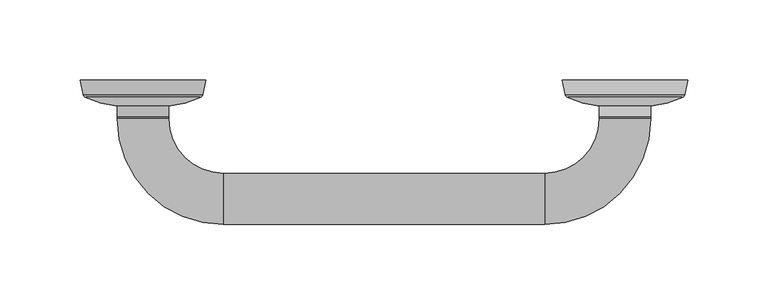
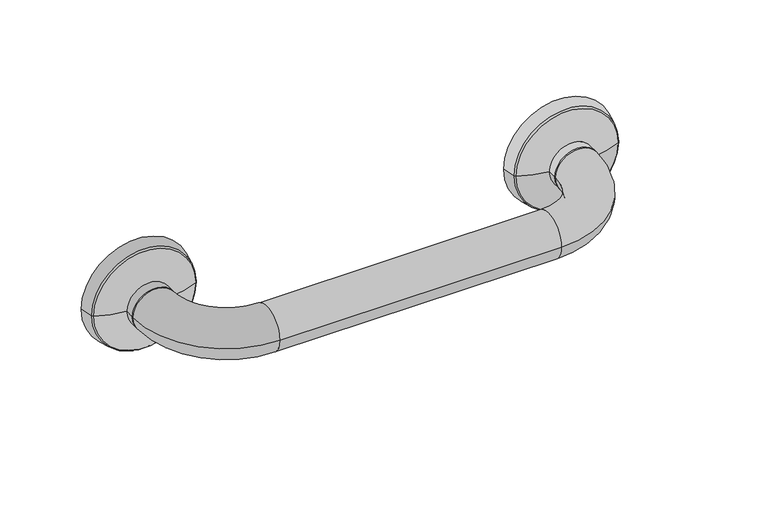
"""IFC4 building model written with IfcOpenShell, lengths in millimetres: proxy geometry, Grab Rail_Metlam_Straight_Horizontal : 332long x 90d x 32h (ML327_1SS)."""

from ifc_helpers import new_model, si_unit, point, frame, origin, place, context, project, spatial, polyline, circle_curve, ellipse_curve, trimmed, source, transform, mapped, element, save
from ifc_brep_helpers import plane_surface, cylinder_surface, revolved_surface, advanced_brep


def specialty_equipment_a866a359(model_context):
    return source(origin(), model_context, "Body", "AdvancedBrep", [
        advanced_brep(
        [(89.0, -58.0, 784.0), (55.0, -24.0, 784.0), (23.0, -24.0, 784.0), (89.0, -90.0, 784.0), (289.0, -90.0, 784.0), (289.0, -58.0, 784.0), (355.0, -24.0, 784.0), (323.0, -24.0, 784.0), (55.0, -23.0, 784.0), (23.0, -23.0, 784.0), (355.0, -23.0, 784.0), (323.0, -23.0, 784.0), (0.0, 0.0, 784.0), (78.0, 0.0, 784.0), (76.1870729, -9.0646354, 784.0), (1.8129271, -9.0646354, 784.0), (2.8615925, -10.4521085, 784.0), (75.1384075, -10.4521085, 784.0), (55.0, -16.0065539, 784.0), (23.0, -16.0065539, 784.0), (39.0, 0.0, 784.0), (378.0, 0.0, 784.0), (300.0, 0.0, 784.0), (339.0, 0.0, 784.0), (376.1870729, -9.0646354, 784.0), (301.8129271, -9.0646354, 784.0), (355.0, -16.0065539, 784.0), (323.0, -16.0065539, 784.0), (302.8615925, -10.4521085, 784.0), (375.1384075, -10.4521085, 784.0)],
        [
            (0, 1, circle_curve(frame((89.0, -24.0, 784.0), z_axis=(0.0, 0.0, -1.0), x_axis=(-1.0, 0.0, 0.0)), 34.0)),
            (1, 2, circle_curve(frame((39.0, -24.0, 784.0), z_axis=(0.0, -1.0, 0.0), x_axis=(1.0, 0.0, 0.0)), 16.0)),
            (2, 3, circle_curve(frame((89.0, -24.0, 784.0), z_axis=(0.0, 0.0, 1.0), x_axis=(-1.0, 0.0, 0.0)), 66.0)),
            (3, 0, circle_curve(frame((89.0, -74.0, 784.0), z_axis=(-1.0, 1.6734122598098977e-12, 0.0), x_axis=(1.6734122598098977e-12, 1.0, 0.0)), 16.0)),
            (0, 3, circle_curve(frame((89.0, -74.0, 784.0), z_axis=(-1.0, 3.240381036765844e-12, 0.0), x_axis=(3.240381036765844e-12, 1.0, 0.0)), 16.0)),
            (2, 1, circle_curve(frame((39.0, -24.0, 784.0), z_axis=(0.0, -1.0, 0.0), x_axis=(1.0, 0.0, 0.0)), 16.0)),
            (3, 4),
            (4, 5, circle_curve(frame((289.0, -74.0, 784.0), z_axis=(-1.0, 0.0, 0.0), x_axis=(0.0, 1.0, 0.0)), 16.0)),
            (5, 0),
            (5, 4, circle_curve(frame((289.0, -74.0, 784.0), z_axis=(-1.0, 0.0, 0.0), x_axis=(0.0, 1.0, 0.0)), 16.0)),
            (4, 6, circle_curve(frame((289.0, -24.0, 784.0), z_axis=(0.0, 0.0, 1.0), x_axis=(0.0, -1.0, 0.0)), 66.0)),
            (6, 7, circle_curve(frame((339.0, -24.0, 784.0), z_axis=(0.0, -1.0, 0.0), x_axis=(-1.0, 0.0, 0.0)), 16.0)),
            (7, 5, circle_curve(frame((289.0, -24.0, 784.0), z_axis=(0.0, 0.0, -1.0), x_axis=(0.0, -1.0, 0.0)), 34.0)),
            (7, 6, circle_curve(frame((339.0, -24.0, 784.0), z_axis=(0.0, -1.0, 0.0), x_axis=(-1.0, 0.0, 0.0)), 16.0)),
            (1, 8),
            (8, 9, circle_curve(frame((39.0, -23.0, 784.0), z_axis=(0.0, -1.0, 0.0), x_axis=(1.0, 0.0, 0.0)), 16.0)),
            (9, 2),
            (9, 8, circle_curve(frame((39.0, -23.0, 784.0), z_axis=(0.0, -1.0, 0.0), x_axis=(1.0, 0.0, 0.0)), 16.0)),
            (6, 10),
            (10, 11, circle_curve(frame((339.0, -23.0, 784.0), z_axis=(0.0, -1.0, 0.0), x_axis=(-1.0, 0.0, 0.0)), 16.0)),
            (11, 7),
            (11, 10, circle_curve(frame((339.0, -23.0, 784.0), z_axis=(0.0, -1.0, 0.0), x_axis=(-1.0, 0.0, 0.0)), 16.0)),
            (12, 13, circle_curve(frame((39.0, 0.0, 784.0), z_axis=(0.0, -1.0, 0.0), x_axis=(1.0, 0.0, 0.0)), 39.0)),
            (13, 14),
            (14, 15, circle_curve(frame((39.0, -9.0646354, 784.0), z_axis=(0.0, 1.0, 0.0), x_axis=(1.0, 0.0, 0.0)), 37.1870729)),
            (15, 12),
            (13, 12, circle_curve(frame((39.0, 0.0, 784.0), z_axis=(0.0, -1.0, 0.0), x_axis=(1.0, 0.0, 0.0)), 39.0)),
            (15, 14, circle_curve(frame((39.0, -9.0646354, 784.0), z_axis=(0.0, 1.0, 0.0), x_axis=(1.0, 0.0, 0.0)), 37.1870729)),
            (16, 17, circle_curve(frame((39.0, -10.4521085, 784.0), z_axis=(0.0, -1.0, 0.0), x_axis=(1.0, 0.0, 0.0)), 36.1384075)),
            (17, 18, circle_curve(frame((51.6887092, 35.2834961, 784.0), z_axis=(0.0, 0.0, -1.0), x_axis=(-1.0, 0.0, 0.0)), 51.3968275)),
            (18, 19, circle_curve(frame((39.0, -16.0065539, 784.0), z_axis=(0.0, 1.0, 0.0), x_axis=(1.0, 0.0, 0.0)), 16.0)),
            (19, 16, circle_curve(frame((26.3112908, 35.2834961, 784.0), z_axis=(0.0, 0.0, -1.0), x_axis=(1.0, 0.0, 0.0)), 51.3968275)),
            (17, 16, circle_curve(frame((39.0, -10.4521085, 784.0), z_axis=(0.0, -1.0, 0.0), x_axis=(1.0, 0.0, 0.0)), 36.1384075)),
            (19, 18, circle_curve(frame((39.0, -16.0065539, 784.0), z_axis=(0.0, 1.0, 0.0), x_axis=(1.0, 0.0, 0.0)), 16.0)),
            (18, 8),
            (9, 19),
            (12, 20),
            (20, 13),
            (14, 17, circle_curve(frame((74.2259116, -8.6724031, 784.0), z_axis=(0.0, 0.0, -1.0), x_axis=(-1.0, 0.0, 0.0)), 2.0)),
            (16, 15, circle_curve(frame((3.7740884, -8.6724031, 784.0), z_axis=(0.0, 0.0, -1.0), x_axis=(1.0, 0.0, 0.0)), 2.0)),
            (21, 22, circle_curve(frame((339.0, 0.0, 784.0), z_axis=(0.0, 1.0, 0.0), x_axis=(-1.0, 0.0, 0.0)), 39.0)),
            (22, 23),
            (23, 21),
            (22, 21, circle_curve(frame((339.0, 0.0, 784.0), z_axis=(0.0, 1.0, 0.0), x_axis=(-1.0, 0.0, 0.0)), 39.0)),
            (21, 24),
            (24, 25, circle_curve(frame((339.0, -9.0646354, 784.0), z_axis=(0.0, 1.0, 0.0), x_axis=(-1.0, 0.0, 0.0)), 37.1870729)),
            (25, 22),
            (25, 24, circle_curve(frame((339.0, -9.0646354, 784.0), z_axis=(0.0, 1.0, 0.0), x_axis=(-1.0, 0.0, 0.0)), 37.1870729)),
            (26, 27, circle_curve(frame((339.0, -16.0065539, 784.0), z_axis=(0.0, 1.0, 0.0), x_axis=(-1.0, 0.0, 0.0)), 16.0)),
            (27, 28, circle_curve(frame((326.3112908, 35.2834961, 784.0), z_axis=(0.0, 0.0, -1.0), x_axis=(-1.0, 0.0, 0.0)), 51.3968275)),
            (28, 29, circle_curve(frame((339.0, -10.4521085, 784.0), z_axis=(0.0, -1.0, 0.0), x_axis=(-1.0, 0.0, 0.0)), 36.1384075)),
            (29, 26, circle_curve(frame((351.6887092, 35.2834961, 784.0), z_axis=(0.0, 0.0, -1.0), x_axis=(1.0, 0.0, 0.0)), 51.3968275)),
            (27, 26, circle_curve(frame((339.0, -16.0065539, 784.0), z_axis=(0.0, 1.0, 0.0), x_axis=(-1.0, 0.0, 0.0)), 16.0)),
            (29, 28, circle_curve(frame((339.0, -10.4521085, 784.0), z_axis=(0.0, -1.0, 0.0), x_axis=(-1.0, 0.0, 0.0)), 36.1384075)),
            (26, 10),
            (11, 27),
            (24, 29, circle_curve(frame((374.2259116, -8.6724031, 784.0), z_axis=(0.0, 0.0, -1.0), x_axis=(1.0, 0.0, 0.0)), 2.0)),
            (28, 25, circle_curve(frame((303.7740884, -8.6724031, 784.0), z_axis=(0.0, 0.0, -1.0), x_axis=(-1.0, 0.0, 0.0)), 2.0)),
        ],
        [
            revolved_surface(trimmed(ellipse_curve(frame((39.0, -24.0, 784.0), z_axis=(0.0, 1.0, 0.0), x_axis=(1.0, 0.0, 0.0)), 16.0, 16.0), [point((23.0, -24.0, 784.0))], [point((55.0, -24.0, 784.0))], True, "CARTESIAN"), (89.0, -24.0, 784.0), (0.0, 0.0, 1.0)),
            revolved_surface(trimmed(ellipse_curve(frame((39.0, -24.0, 784.0), z_axis=(0.0, 1.0, 0.0), x_axis=(1.0, 0.0, 0.0)), 16.0, 16.0), [point((55.0, -24.0, 784.0))], [point((23.0, -24.0, 784.0))], True, "CARTESIAN"), (89.0, -24.0, 784.0), (0.0, 0.0, 1.0)),
            cylinder_surface(frame((89.0, -74.0, 784.0), z_axis=(-1.0, 0.0, 0.0), x_axis=(0.0, 1.0, 0.0)), 16.0),
            revolved_surface(trimmed(ellipse_curve(frame((289.0, -74.0, 784.0), z_axis=(-1.0, 0.0, 0.0), x_axis=(0.0, 1.0, 0.0)), 16.0, 16.0), [point((289.0, -90.0, 784.0))], [point((289.0, -58.0, 784.0))], True, "CARTESIAN"), (289.0, -24.0, 784.0), (0.0, 0.0, 1.0)),
            revolved_surface(trimmed(ellipse_curve(frame((289.0, -74.0, 784.0), z_axis=(-1.0, 0.0, 0.0), x_axis=(0.0, 1.0, 0.0)), 16.0, 16.0), [point((289.0, -58.0, 784.0))], [point((289.0, -90.0, 784.0))], True, "CARTESIAN"), (289.0, -24.0, 784.0), (0.0, 0.0, 1.0)),
            cylinder_surface(frame((39.0, -23.0, 784.0), z_axis=(0.0, 1.0, 0.0), x_axis=(1.0, 0.0, 0.0)), 16.0),
            cylinder_surface(frame((339.0, -24.0, 784.0), z_axis=(0.0, -1.0, 0.0), x_axis=(-1.0, 0.0, 0.0)), 16.0),
            revolved_surface(polyline([(76.1870729, -9.0646354, 784.0), (78.0, 0.0, 784.0)]), (39.0, -10.0, 784.0), (0.0, 1.0, 0.0)),
            revolved_surface(trimmed(ellipse_curve(frame((51.6887092, 35.2834961, 784.0), z_axis=(0.0, 0.0, 1.0), x_axis=(-1.0, 0.0, 0.0)), 51.3968275, 51.3968275), [point((55.0, -16.0065539, 784.0))], [point((75.1384075, -10.4521085, 784.0))], True, "CARTESIAN"), (39.0, -10.0, 784.0), (0.0, 1.0, 0.0)),
            cylinder_surface(frame((39.0, -10.0, 784.0), z_axis=(0.0, 1.0, 0.0), x_axis=(1.0, 0.0, 0.0)), 16.0),
            plane_surface(frame((39.0, 0.0, 784.0), z_axis=(0.0, 1.0, 0.0), x_axis=(1.0, 0.0, 0.0))),
            revolved_surface(trimmed(ellipse_curve(frame((74.2259116, -8.6724031, 784.0), z_axis=(0.0, 0.0, 1.0), x_axis=(-1.0, 0.0, 0.0)), 2.0, 2.0), [point((75.1384075, -10.4521085, 784.0))], [point((76.1870729, -9.0646354, 784.0))], True, "CARTESIAN"), (39.0, -10.0, 784.0), (0.0, 1.0, 0.0)),
            plane_surface(frame((339.0, 0.0, 784.0), z_axis=(0.0, 1.0, 0.0), x_axis=(-1.0, 0.0, 0.0))),
            revolved_surface(polyline([(300.0, 0.0, 784.0), (301.8129271, -9.0646354, 784.0)]), (339.0, -10.0, 784.0), (0.0, -1.0, 0.0)),
            revolved_surface(trimmed(ellipse_curve(frame((326.3112908, 35.2834961, 784.0), z_axis=(0.0, 0.0, 1.0), x_axis=(-1.0, 0.0, 0.0)), 51.3968275, 51.3968275), [point((302.8615925, -10.4521085, 784.0))], [point((323.0, -16.0065539, 784.0))], True, "CARTESIAN"), (339.0, -10.0, 784.0), (0.0, -1.0, 0.0)),
            cylinder_surface(frame((339.0, -10.0, 784.0), z_axis=(0.0, -1.0, 0.0), x_axis=(-1.0, 0.0, 0.0)), 16.0),
            revolved_surface(trimmed(ellipse_curve(frame((303.7740884, -8.6724031, 784.0), z_axis=(0.0, 0.0, 1.0), x_axis=(-1.0, 0.0, 0.0)), 2.0, 2.0), [point((301.8129271, -9.0646354, 784.0))], [point((302.8615925, -10.4521085, 784.0))], True, "CARTESIAN"), (339.0, -10.0, 784.0), (0.0, -1.0, 0.0)),
        ],
        [
            (0, [[1, 2, 3, 4]]),
            (1, [[-1, 5, -3, 6]]),
            (2, [[-4, 7, 8, 9]]),
            (2, [[-5, -9, 10, -7]]),
            (3, [[-8, 11, 12, 13]]),
            (4, [[-10, -13, 14, -11]]),
            (5, [[-2, 15, 16, 17]]),
            (5, [[-6, -17, 18, -15]]),
            (6, [[-12, 19, 20, 21]]),
            (6, [[-14, -21, 22, -19]]),
            (7, [[23, 24, 25, 26]]),
            (7, [[-24, 27, -26, 28]]),
            (8, [[29, 30, 31, 32]]),
            (8, [[-30, 33, -32, 34]]),
            (9, [[-31, 35, -18, 36]]),
            (9, [[-34, -36, -16, -35]]),
            (10, [[-23, 37, 38]]),
            (10, [[-27, -38, -37]]),
            (11, [[-25, 39, -29, 40]]),
            (11, [[-28, -40, -33, -39]]),
            (12, [[41, 42, 43]]),
            (12, [[-42, 44, -43]]),
            (13, [[-41, 45, 46, 47]]),
            (13, [[-44, -47, 48, -45]]),
            (14, [[49, 50, 51, 52]]),
            (14, [[-50, 53, -52, 54]]),
            (15, [[-49, 55, -22, 56]]),
            (15, [[-53, -56, -20, -55]]),
            (16, [[-46, 57, -51, 58]]),
            (16, [[-48, -58, -54, -57]]),
        ],
    ),
    ])


if __name__ == "__main__":
    model = new_model("IFC4")
    model_context = context("Model", 3, world=origin())
    ifc_project = project(units=[si_unit("LENGTHUNIT", "METRE", prefix="MILLI")], contexts=[model_context])
    site = spatial("IfcSite", under=ifc_project)
    building = spatial("IfcBuilding", under=site)
    placement = place(None, origin())
    specialty_equipment_shape = specialty_equipment_a866a359(model_context)
    element("IfcBuildingElementProxy", 1, Name="Grab Rail_Metlam_Straight_Horizontal : 332long x 90d x 32h (ML327_1SS)", ObjectType="Grab Rail_Metlam_Straight_Horizontal : 332long x 90d x 32h (ML327_1SS)", at=placement, inside=building, context=model_context, shape_type="MappedRepresentation", body=[
        mapped(specialty_equipment_shape, transform((0.0, 0.0, 0.0), x_axis=(1.0, 0.0, 0.0), y_axis=(0.0, 1.0, 0.0), z_axis=(0.0, 0.0, 1.0))),
    ])
    save(model, "model.ifc")
